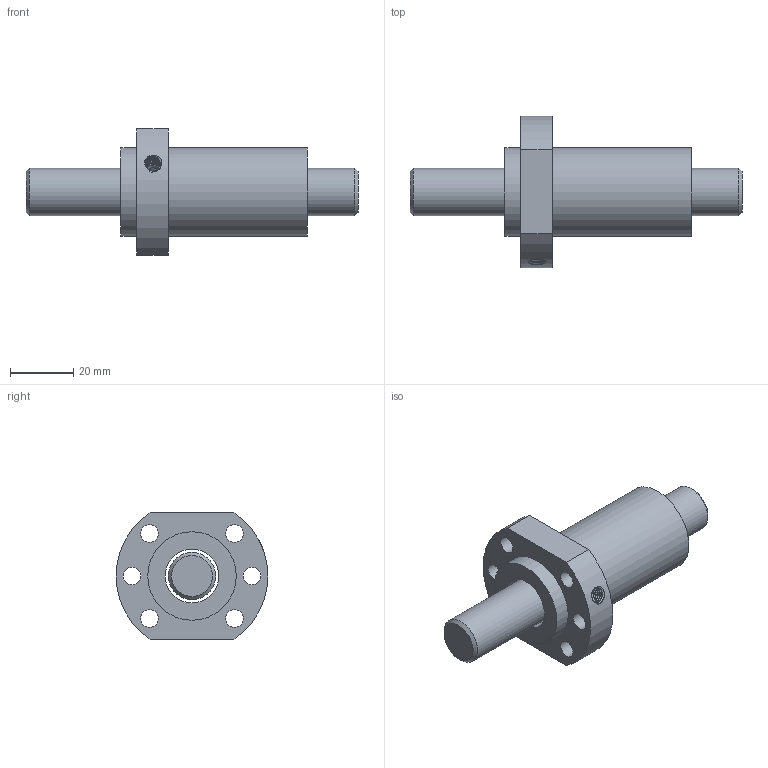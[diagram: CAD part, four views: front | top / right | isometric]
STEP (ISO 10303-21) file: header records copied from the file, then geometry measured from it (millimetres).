
FILE_DESCRIPTION(/* description */ ('Unknown','CAx-IF Rec.Pracs.---Representation and Presentation of Product Manufacturing Information (PMI)---4.0---2014-10-13','CAx-IF Rec.Pracs.---3D Tessellated Geometry---0.4---2014-09-14','2;1'),/* implementation_level */ '2;1');
FILE_NAME(/* name */ 'SFA1616-2.8',/* time_stamp */ '2020-12-08T08:13:55+08:00',/* author */ ('Unknown'),/* organization */ ('Unknown'),/* preprocessor_version */ 'ST-DEVELOPER v16.7',/* originating_system */ 'Solid Edge',/* authorisation */ 'Unknown');
FILE_SCHEMA (('AP242_MANAGED_MODEL_BASED_3D_ENGINEERING_MIM_LF { 1 0 10303 442 1 1 4 }'));
Length unit declared in the file: millimetre
Products named in the file (1): SFA1616-2
Bounding box: 105 x 48 x 40 mm (x, y, z)
Volume: 50244.6 mm3; surface area: 18081.6 mm2
Topology: 2 solids, 2 shells, 30 faces, 69 edges, 45 vertices
Faces by surface type: cylinder 16, plane 9, cone 3, bspline 2
Full cylindrical faces by diameter (mm): 4 x1, 4.917 x1, 5.5 x6, 15 x1, 17 x1, 28 x2
Entity records: 2932 total; most frequent: CARTESIAN_POINT 2230, DIRECTION 134, ORIENTED_EDGE 100, AXIS2_PLACEMENT_3D 64, EDGE_LOOP 63, FACE_BOUND 63, EDGE_CURVE 50, VERTEX_POINT 41
